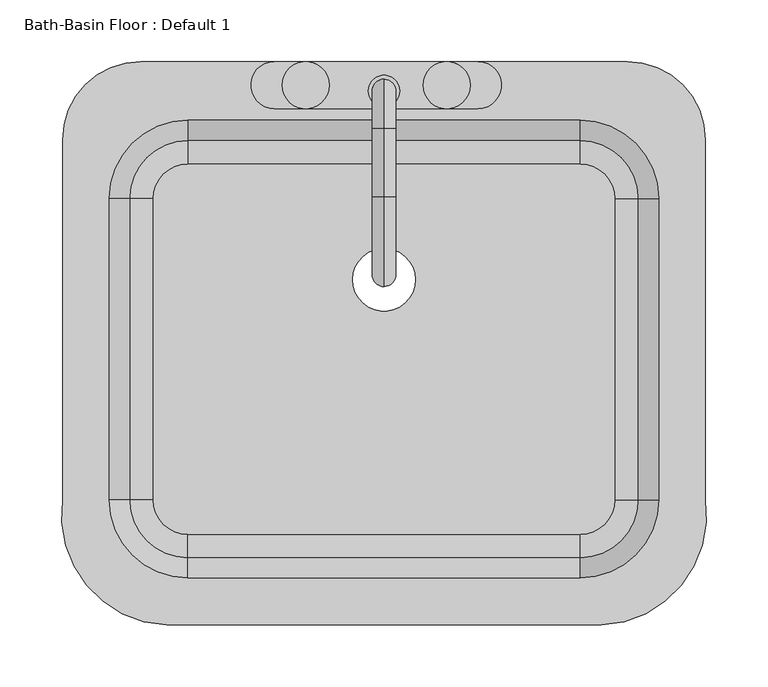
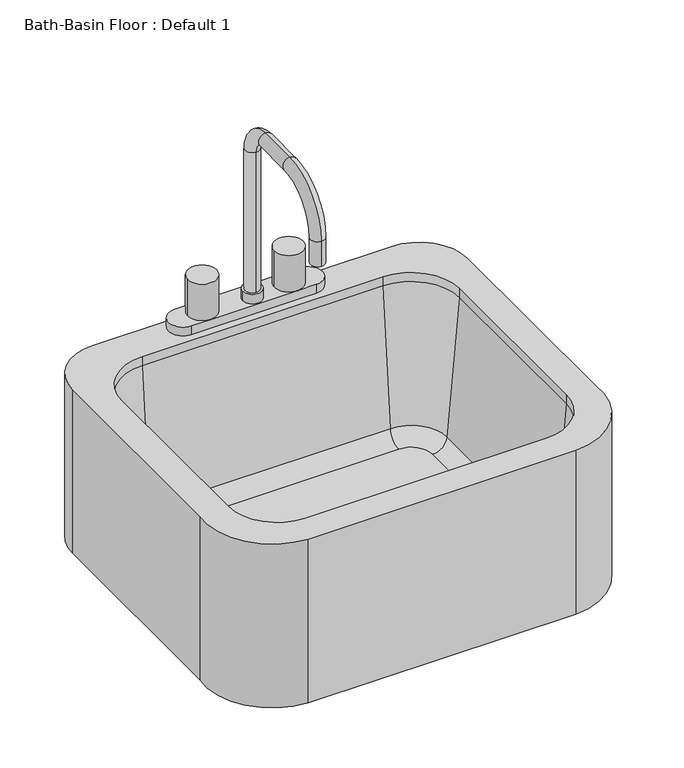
"""IFC4 building model written with IfcOpenShell, lengths in millimetres: flow terminal geometry, Bath-Basin Floor : Default 1."""

from ifc_helpers import new_model, si_unit, point, frame, origin, place, context, project, spatial, polyline, circle_curve, ellipse_curve, trimmed, source, transform, mapped, element, save
from ifc_brep_helpers import plane_surface, cylinder_surface, revolved_surface, advanced_brep


def bath_basin_floor_default_1_6d5a7b09(model_context):
    return source(origin(), model_context, "Body", "AdvancedBrep", [
        advanced_brep(
        [(-160.7132205, -277.0545989, 698.5), (-245.0632875, -175.4545982, 698.5), (-245.0632875, 116.6454011, 698.5), (-181.5632875, 180.1454011, 698.5), (212.9417688, 180.1454011, 698.5), (276.4417688, 116.6454011, 698.5), (276.4417688, -175.4545989, 698.5), (192.0917017, -277.0545989, 698.5), (-9.7107594, 3.175, 698.5), (41.0892406, 3.175, 698.5), (202.830187, 69.0204011, 708.025), (174.8417688, 97.0088193, 708.025), (-143.4632877, 97.0088193, 708.025), (-171.4517059, 69.0204011, 708.025), (-171.4517059, -175.4545989, 708.025), (-143.4632877, -203.4430171, 708.025), (174.8417688, -203.4430171, 708.025), (202.830187, -175.4545989, 708.025), (-9.7107594, 3.175, 708.025), (41.0892406, 3.175, 708.025), (221.807696, 69.0204011, 725.4146831), (174.8417688, 115.9863283, 725.4146831), (238.3417688, 69.0204011, 914.4), (174.8417688, 132.5204011, 914.4), (221.807696, -175.4545989, 725.4146831), (238.3417688, -175.4545989, 914.4), (174.8417688, -222.4205261, 725.4146831), (174.8417688, -238.9545989, 914.4), (-143.4632877, -222.4205261, 725.4146831), (-143.4632877, -238.9545989, 914.4), (-190.4292149, -175.4545989, 725.4146831), (-206.9632877, -175.4545989, 914.4), (-190.4292149, 69.0204011, 725.4146831), (-206.9632877, 69.0204011, 914.4), (-143.4632877, 115.9863283, 725.4146831), (-143.4632877, 132.5204011, 914.4), (-160.7132205, -277.0545989, 927.1), (192.0917017, -277.0545989, 927.1), (276.4417688, -175.4545989, 927.1), (276.4417688, 116.6454011, 927.1), (212.9417688, 180.1454011, 927.1), (-181.5632875, 180.1454011, 927.1), (-245.0632875, 116.6454011, 927.1), (-245.0632875, -175.4545982, 927.1), (174.8417688, 132.5204011, 927.1), (238.3417688, 69.0204011, 927.1), (238.3417688, -175.4545989, 927.1), (174.8417688, -238.9545989, 927.1), (-143.4632877, -238.9545989, 927.1), (-206.9632877, -175.4545989, 927.1), (-206.9632877, 69.0204011, 927.1), (-143.4632877, 132.5204011, 927.1)],
        [
            (0, 1, circle_curve(frame((-156.9060028, -188.0793432, 698.5), z_axis=(0.0, 0.0, -1.0), x_axis=(1.0, 0.0, 0.0)), 89.0566732)),
            (1, 2),
            (2, 3, circle_curve(frame((-181.5632875, 116.6454011, 698.5), z_axis=(0.0, 0.0, -1.0), x_axis=(1.0, 0.0, 0.0)), 63.5)),
            (3, 4),
            (4, 5, circle_curve(frame((212.9417688, 116.6454011, 698.5), z_axis=(0.0, 0.0, -1.0), x_axis=(1.0, 0.0, 0.0)), 63.5)),
            (5, 6),
            (6, 7, circle_curve(frame((188.2844839, -188.0793432, 698.5), z_axis=(0.0, 0.0, -1.0), x_axis=(1.0, 0.0, 0.0)), 89.0566732)),
            (7, 0),
            (8, 9, circle_curve(frame((15.6892406, 3.175, 698.5), z_axis=(0.0, 0.0, 1.0), x_axis=(1.0, 0.0, 0.0)), 25.4)),
            (9, 8, circle_curve(frame((15.6892406, 3.175, 698.5), z_axis=(0.0, 0.0, 1.0), x_axis=(1.0, 0.0, 0.0)), 25.4)),
            (10, 11, circle_curve(frame((174.8417688, 69.0204011, 708.025), z_axis=(0.0, 0.0, 1.0), x_axis=(0.0, 1.0, 0.0)), 27.9884182)),
            (11, 12),
            (12, 13, circle_curve(frame((-143.4632877, 69.0204011, 708.025), z_axis=(0.0, 0.0, 1.0), x_axis=(-1.0, 0.0, 0.0)), 27.9884182)),
            (13, 14),
            (14, 15, circle_curve(frame((-143.4632877, -175.4545989, 708.025), z_axis=(0.0, 0.0, 1.0), x_axis=(0.0, -1.0, 0.0)), 27.9884182)),
            (15, 16),
            (16, 17, circle_curve(frame((174.8417688, -175.4545989, 708.025), z_axis=(0.0, 0.0, 1.0), x_axis=(1.0, 0.0, 0.0)), 27.9884182)),
            (17, 10),
            (18, 19, circle_curve(frame((15.6892406, 3.175, 708.025), z_axis=(0.0, 0.0, -1.0), x_axis=(1.0, 0.0, 0.0)), 25.4)),
            (19, 18, circle_curve(frame((15.6892406, 3.175, 708.025), z_axis=(0.0, 0.0, -1.0), x_axis=(1.0, 0.0, 0.0)), 25.4)),
            (10, 20, circle_curve(frame((202.830187, 69.0204011, 727.075), z_axis=(0.0, -1.0, 0.0), x_axis=(1.0, 0.0, 0.0)), 19.05)),
            (20, 21, circle_curve(frame((174.8417688, 69.0204011, 725.4146831), z_axis=(0.0, 0.0, 1.0), x_axis=(0.0, 1.0, 0.0)), 46.9659272)),
            (21, 11, circle_curve(frame((174.8417688, 97.0088193, 727.075), z_axis=(-1.0, 0.0, 0.0), x_axis=(0.0, 1.0, 0.0)), 19.05)),
            (20, 22),
            (22, 23, circle_curve(frame((174.8417688, 69.0204011, 914.4), z_axis=(0.0, 0.0, 1.0), x_axis=(0.0, 1.0, 0.0)), 63.5)),
            (23, 21),
            (17, 24, circle_curve(frame((202.830187, -175.4545989, 727.075), z_axis=(0.0, -1.0, 0.0), x_axis=(1.0, 0.0, 0.0)), 19.05)),
            (24, 20),
            (24, 25),
            (25, 22),
            (16, 26, circle_curve(frame((174.8417688, -203.4430171, 727.075), z_axis=(-1.0, 0.0, 0.0), x_axis=(0.0, -1.0, 0.0)), 19.05)),
            (26, 24, circle_curve(frame((174.8417688, -175.4545989, 725.4146831), z_axis=(0.0, 0.0, 1.0), x_axis=(1.0, 0.0, 0.0)), 46.9659272)),
            (26, 27),
            (27, 25, circle_curve(frame((174.8417688, -175.4545989, 914.4), z_axis=(0.0, 0.0, 1.0), x_axis=(1.0, 0.0, 0.0)), 63.5)),
            (15, 28, circle_curve(frame((-143.4632877, -203.4430171, 727.075), z_axis=(-1.0, 0.0, 0.0), x_axis=(0.0, -1.0, 0.0)), 19.05)),
            (28, 26),
            (28, 29),
            (29, 27),
            (14, 30, circle_curve(frame((-171.4517059, -175.4545989, 727.075), z_axis=(0.0, 1.0, 0.0), x_axis=(-1.0, 0.0, 0.0)), 19.05)),
            (30, 28, circle_curve(frame((-143.4632877, -175.4545989, 725.4146831), z_axis=(0.0, 0.0, 1.0), x_axis=(0.0, -1.0, 0.0)), 46.9659272)),
            (30, 31),
            (31, 29, circle_curve(frame((-143.4632877, -175.4545989, 914.4), z_axis=(0.0, 0.0, 1.0), x_axis=(0.0, -1.0, 0.0)), 63.5)),
            (13, 32, circle_curve(frame((-171.4517059, 69.0204011, 727.075), z_axis=(0.0, 1.0, 0.0), x_axis=(-1.0, 0.0, 0.0)), 19.05)),
            (32, 30),
            (32, 33),
            (33, 31),
            (12, 34, circle_curve(frame((-143.4632877, 97.0088193, 727.075), z_axis=(1.0, 0.0, 0.0), x_axis=(0.0, 1.0, 0.0)), 19.05)),
            (34, 32, circle_curve(frame((-143.4632877, 69.0204011, 725.4146831), z_axis=(0.0, 0.0, 1.0), x_axis=(-1.0, 0.0, 0.0)), 46.9659272)),
            (34, 35),
            (35, 33, circle_curve(frame((-143.4632877, 69.0204011, 914.4), z_axis=(0.0, 0.0, 1.0), x_axis=(-1.0, 0.0, 0.0)), 63.5)),
            (21, 34),
            (23, 35),
            (18, 8),
            (9, 19),
            (36, 37),
            (37, 38, circle_curve(frame((188.2844839, -188.0793432, 927.1), z_axis=(0.0, 0.0, 1.0), x_axis=(1.0, 0.0, 0.0)), 89.0566732)),
            (38, 39),
            (39, 40, circle_curve(frame((212.9417688, 116.6454011, 927.1), z_axis=(0.0, 0.0, 1.0), x_axis=(1.0, 0.0, 0.0)), 63.5)),
            (40, 41),
            (41, 42, circle_curve(frame((-181.5632875, 116.6454011, 927.1), z_axis=(0.0, 0.0, 1.0), x_axis=(1.0, 0.0, 0.0)), 63.5)),
            (42, 43),
            (43, 36, circle_curve(frame((-156.9060028, -188.0793432, 927.1), z_axis=(0.0, 0.0, 1.0), x_axis=(1.0, 0.0, 0.0)), 89.0566732)),
            (44, 45, circle_curve(frame((174.8417688, 69.0204011, 927.1), z_axis=(0.0, 0.0, -1.0), x_axis=(1.0, 0.0, 0.0)), 63.5)),
            (45, 46),
            (46, 47, circle_curve(frame((174.8417688, -175.4545989, 927.1), z_axis=(0.0, 0.0, -1.0), x_axis=(1.0, 0.0, 0.0)), 63.5)),
            (47, 48),
            (48, 49, circle_curve(frame((-143.4632877, -175.4545989, 927.1), z_axis=(0.0, 0.0, -1.0), x_axis=(1.0, 0.0, 0.0)), 63.5)),
            (49, 50),
            (50, 51, circle_curve(frame((-143.4632877, 69.0204011, 927.1), z_axis=(0.0, 0.0, -1.0), x_axis=(1.0, 0.0, 0.0)), 63.5)),
            (51, 44),
            (36, 0),
            (7, 37),
            (6, 38),
            (5, 39),
            (4, 40),
            (3, 41),
            (2, 42),
            (1, 43),
            (44, 23),
            (22, 45),
            (25, 46),
            (27, 47),
            (29, 48),
            (31, 49),
            (33, 50),
            (35, 51),
        ],
        [
            plane_surface(frame((174.8417688, 69.0204011, 698.5), z_axis=(0.0, 0.0, -1.0), x_axis=(0.0, 1.0, 0.0))),
            plane_surface(frame((174.8417688, 69.0204011, 708.025), z_axis=(0.0, 0.0, 1.0), x_axis=(0.0, 1.0, 0.0))),
            revolved_surface(trimmed(ellipse_curve(frame((174.8417688, 97.0088193, 727.075), z_axis=(1.0, 0.0, 0.0), x_axis=(0.0, 1.0, 0.0)), 19.05, 19.05), [point((174.8417688, 97.0088193, 708.025))], [point((174.8417688, 115.9863283, 725.4146831))], True, "CARTESIAN"), (174.8417688, 69.0204011, 0.0), (0.0, 0.0, -1.0)),
            revolved_surface(polyline([(174.8417688, 115.9863283, 725.4146831), (174.8417688, 132.5204011, 914.4)]), (174.8417688, 69.0204011, 0.0), (0.0, 0.0, -1.0)),
            revolved_surface(polyline([(221.880187, -175.4545989, 727.075), (221.880187, 69.0204011, 727.075)]), (202.830187, 69.0204011, 727.075), (0.0, -1.0, 0.0)),
            plane_surface(frame((221.807696, 69.0204011, 725.4146831), z_axis=(-0.9961946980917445, 0.0, 0.08715574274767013), x_axis=(0.0, -1.0, 0.0))),
            revolved_surface(trimmed(ellipse_curve(frame((202.830187, -175.4545989, 727.075), z_axis=(0.0, -1.0, 0.0), x_axis=(1.0, 0.0, 0.0)), 19.05, 19.05), [point((202.830187, -175.4545989, 708.025))], [point((221.807696, -175.4545989, 725.4146831))], True, "CARTESIAN"), (174.8417688, -175.4545989, 0.0), (0.0, 0.0, -1.0)),
            revolved_surface(polyline([(221.807696, -175.4545989, 725.4146831), (238.3417688, -175.4545989, 914.4)]), (174.8417688, -175.4545989, 0.0), (0.0, 0.0, -1.0)),
            revolved_surface(polyline([(-143.46328769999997, -222.4930171, 727.075), (174.8417688, -222.4930171, 727.075)]), (174.8417688, -203.4430171, 727.075), (-1.0, 0.0, 0.0)),
            plane_surface(frame((174.8417688, -222.4205261, 725.4146831), z_axis=(0.0, 0.9961946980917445, 0.08715574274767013), x_axis=(-1.0, 0.0, 0.0))),
            revolved_surface(trimmed(ellipse_curve(frame((-143.4632877, -203.4430171, 727.075), z_axis=(-1.0, 0.0, 0.0), x_axis=(0.0, -1.0, 0.0)), 19.05, 19.05), [point((-143.4632877, -203.4430171, 708.025))], [point((-143.4632877, -222.4205261, 725.4146831))], True, "CARTESIAN"), (-143.4632877, -175.4545989, 0.0), (0.0, 0.0, -1.0)),
            revolved_surface(polyline([(-143.4632877, -222.4205261, 725.4146831), (-143.4632877, -238.9545989, 914.4)]), (-143.4632877, -175.4545989, 0.0), (0.0, 0.0, -1.0)),
            revolved_surface(polyline([(-190.50170590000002, 69.02040110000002, 727.075), (-190.50170590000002, -175.4545989, 727.075)]), (-171.4517059, -175.4545989, 727.075), (0.0, 1.0, 0.0)),
            plane_surface(frame((-190.4292149, -175.4545989, 725.4146831), z_axis=(0.9961946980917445, 0.0, 0.08715574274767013), x_axis=(0.0, 1.0, 0.0))),
            revolved_surface(trimmed(ellipse_curve(frame((-171.4517059, 69.0204011, 727.075), z_axis=(0.0, 1.0, 0.0), x_axis=(-1.0, 0.0, 0.0)), 19.05, 19.05), [point((-171.4517059, 69.0204011, 708.025))], [point((-190.4292149, 69.0204011, 725.4146831))], True, "CARTESIAN"), (-143.4632877, 69.0204011, 0.0), (0.0, 0.0, -1.0)),
            revolved_surface(polyline([(-190.4292149, 69.0204011, 725.4146831), (-206.9632877, 69.0204011, 914.4)]), (-143.4632877, 69.0204011, 0.0), (0.0, 0.0, -1.0)),
            revolved_surface(polyline([(174.84176879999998, 116.0588193, 727.075), (-143.4632877, 116.0588193, 727.075)]), (-143.4632877, 97.0088193, 727.075), (1.0, 0.0, 0.0)),
            plane_surface(frame((-143.4632877, 115.9863283, 725.4146831), z_axis=(0.0, -0.9961946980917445, 0.08715574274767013), x_axis=(1.0, 0.0, 0.0))),
            revolved_surface(polyline([(41.0892406, 3.175, 698.5), (41.0892406, 3.175, 708.025)]), (15.6892406, 3.175, 0.0), (0.0, 0.0, -1.0)),
            plane_surface(frame((192.0917017, -277.0545989, 927.1), z_axis=(0.0, 0.0, 1.0), x_axis=(1.0, 0.0, 0.0))),
            plane_surface(frame((-160.7132205, -277.0545989, 927.1), z_axis=(0.0, -1.0, 0.0), x_axis=(0.0, 0.0, -1.0))),
            cylinder_surface(frame((188.2844839, -188.0793432, 698.5), z_axis=(0.0, 0.0, 1.0), x_axis=(1.0, 0.0, 0.0)), 89.0566732),
            plane_surface(frame((276.4417688, -175.4545989, 927.1), z_axis=(1.0, 0.0, 0.0), x_axis=(0.0, 0.0, -1.0))),
            cylinder_surface(frame((212.9417688, 116.6454011, 698.5), z_axis=(0.0, 0.0, 1.0), x_axis=(1.0, 0.0, 0.0)), 63.5),
            plane_surface(frame((212.9417688, 180.1454011, 927.1), z_axis=(0.0, 1.0, 0.0), x_axis=(0.0, 0.0, -1.0))),
            cylinder_surface(frame((-181.5632875, 116.6454011, 698.5), z_axis=(0.0, 0.0, 1.0), x_axis=(1.0, 0.0, 0.0)), 63.5),
            plane_surface(frame((-245.0632875, 116.6454011, 927.1), z_axis=(-1.0, 0.0, 0.0), x_axis=(0.0, 0.0, -1.0))),
            cylinder_surface(frame((-156.9060028, -188.0793432, 698.5), z_axis=(0.0, 0.0, 1.0), x_axis=(1.0, 0.0, 0.0)), 89.0566732),
            revolved_surface(polyline([(238.3417688, 69.0204011, 914.4), (238.3417688, 69.0204011, 927.1)]), (174.8417688, 69.0204011, 0.0), (0.0, 0.0, -1.0)),
            plane_surface(frame((238.3417688, 69.0204011, 927.1), z_axis=(-1.0, 0.0, 0.0), x_axis=(0.0, 0.0, -1.0))),
            revolved_surface(polyline([(238.3417688, -175.4545989, 914.4), (238.3417688, -175.4545989, 927.1)]), (174.8417688, -175.4545989, 0.0), (0.0, 0.0, -1.0)),
            plane_surface(frame((174.8417688, -238.9545989, 927.1), z_axis=(0.0, 1.0, 0.0), x_axis=(0.0, 0.0, -1.0))),
            revolved_surface(polyline([(-79.9632877, -175.4545989, 914.4), (-79.9632877, -175.4545989, 927.1)]), (-143.4632877, -175.4545989, 0.0), (0.0, 0.0, -1.0)),
            plane_surface(frame((-206.9632877, -175.4545989, 927.1), z_axis=(1.0, 0.0, 0.0), x_axis=(0.0, 0.0, -1.0))),
            revolved_surface(polyline([(-79.9632877, 69.0204011, 914.4), (-79.9632877, 69.0204011, 927.1)]), (-143.4632877, 69.0204011, 0.0), (0.0, 0.0, -1.0)),
            plane_surface(frame((-143.4632877, 132.5204011, 927.1), z_axis=(0.0, -1.0, 0.0), x_axis=(0.0, 0.0, -1.0))),
        ],
        [
            (0, [[1, 2, 3, 4, 5, 6, 7, 8], [9, 10]]),
            (1, [[11, 12, 13, 14, 15, 16, 17, 18], [19, 20]]),
            (2, [[-11, 21, 22, 23]]),
            (3, [[-22, 24, 25, 26]]),
            (4, [[-21, -18, 27, 28]]),
            (5, [[-24, -28, 29, 30]]),
            (6, [[-27, -17, 31, 32]]),
            (7, [[-29, -32, 33, 34]]),
            (8, [[-31, -16, 35, 36]]),
            (9, [[-33, -36, 37, 38]]),
            (10, [[-35, -15, 39, 40]]),
            (11, [[-37, -40, 41, 42]]),
            (12, [[-39, -14, 43, 44]]),
            (13, [[-41, -44, 45, 46]]),
            (14, [[-43, -13, 47, 48]]),
            (15, [[-45, -48, 49, 50]]),
            (16, [[-23, 51, -47, -12]]),
            (17, [[-26, 52, -49, -51]]),
            (18, [[-19, 53, -10, 54]]),
            (18, [[-20, -54, -9, -53]]),
            (19, [[55, 56, 57, 58, 59, 60, 61, 62], [63, 64, 65, 66, 67, 68, 69, 70]]),
            (20, [[-55, 71, -8, 72]]),
            (21, [[-56, -72, -7, 73]]),
            (22, [[-57, -73, -6, 74]]),
            (23, [[-58, -74, -5, 75]]),
            (24, [[-59, -75, -4, 76]]),
            (25, [[-60, -76, -3, 77]]),
            (26, [[-61, -77, -2, 78]]),
            (27, [[-62, -78, -1, -71]]),
            (28, [[-63, 79, -25, 80]]),
            (29, [[-64, -80, -30, 81]]),
            (30, [[-65, -81, -34, 82]]),
            (31, [[-66, -82, -38, 83]]),
            (32, [[-67, -83, -42, 84]]),
            (33, [[-68, -84, -46, 85]]),
            (34, [[-69, -85, -50, 86]]),
            (35, [[-70, -86, -52, -79]]),
        ],
    ),
        advanced_brep(
        [(91.8892406, 180.1454011, 927.1), (91.8892406, 142.0454011, 927.1), (66.4892406, 142.0454011, 927.1), (-47.8107594, 142.0454011, 927.1), (-73.2107594, 142.0454011, 927.1), (-73.2107594, 180.1454011, 927.1), (-47.8107594, 180.1454011, 927.1), (66.4892406, 180.1454011, 927.1), (15.6892406, 165.8579011, 1147.7625), (15.6892406, 146.8079011, 1147.7625), (15.6892406, 146.8079011, 952.5), (15.6892406, 165.8579011, 952.5), (15.6892406, 126.1704011, 1187.45), (15.6892406, 126.1704011, 1168.4), (15.6892406, 70.6079011, 1187.45), (15.6892406, 70.6079011, 1168.4), (15.6892406, -2.4170989, 1114.425), (15.6892406, 16.6329011, 1114.425), (15.6892406, -2.4170989, 1079.5), (15.6892406, 16.6329011, 1079.5), (2.9892406, 156.3329011, 952.5), (28.3892406, 156.3329011, 952.5), (2.9892406, 156.3329011, 939.6), (28.3892406, 156.3329011, 939.6), (-73.2107594, 180.1454011, 939.6), (-73.2107594, 142.0454011, 939.6), (-47.8107594, 142.0454011, 939.6), (-66.8607594, 161.0954011, 939.6), (-47.8107594, 180.1454011, 939.6), (91.8892406, 142.0454011, 939.6), (91.8892406, 180.1454011, 939.6), (66.4892406, 180.1454011, 939.6), (85.5392406, 161.0954011, 939.6), (66.4892406, 142.0454011, 939.6), (-28.7607594, 161.0954011, 939.6), (47.4392406, 161.0954011, 939.6), (-66.8607594, 161.0954011, 990.6), (-28.7607594, 161.0954011, 990.6), (47.4392406, 161.0954011, 990.6), (85.5392406, 161.0954011, 990.6)],
        [
            (0, 1, circle_curve(frame((91.8892406, 161.0954011, 927.1), z_axis=(0.0, 0.0, -1.0), x_axis=(1.0, 0.0, 0.0)), 19.05)),
            (1, 2),
            (2, 3),
            (3, 4),
            (4, 5, circle_curve(frame((-73.2107594, 161.0954011, 927.1), z_axis=(0.0, 0.0, -1.0), x_axis=(1.0, 0.0, 0.0)), 19.05)),
            (5, 6),
            (6, 7),
            (7, 0),
            (8, 9, circle_curve(frame((15.6892406, 156.3329011, 1147.7625), z_axis=(0.0, 0.0, -1.0), x_axis=(0.0, -1.0, 0.0)), 9.525)),
            (9, 10),
            (10, 11, circle_curve(frame((15.6892406, 156.3329011, 952.5), z_axis=(0.0, 0.0, 1.0), x_axis=(0.0, -1.0, 0.0)), 9.525)),
            (11, 8),
            (9, 8, circle_curve(frame((15.6892406, 156.3329011, 1147.7625), z_axis=(0.0, 0.0, -1.0), x_axis=(0.0, -1.0, 0.0)), 9.525)),
            (11, 10, circle_curve(frame((15.6892406, 156.3329011, 952.5), z_axis=(0.0, 0.0, 1.0), x_axis=(0.0, -1.0, 0.0)), 9.525)),
            (8, 12, circle_curve(frame((15.6892406, 126.1704011, 1147.7625), z_axis=(1.0, 0.0, 0.0), x_axis=(0.0, 1.0, 0.0)), 39.6875)),
            (12, 13, circle_curve(frame((15.6892406, 126.1704011, 1177.925), z_axis=(0.0, 1.0, 0.0), x_axis=(0.0, 0.0, -1.0)), 9.525)),
            (13, 9, circle_curve(frame((15.6892406, 126.1704011, 1147.7625), z_axis=(-1.0, 0.0, 0.0), x_axis=(0.0, 1.0, 0.0)), 20.6375)),
            (13, 12, circle_curve(frame((15.6892406, 126.1704011, 1177.925), z_axis=(0.0, 1.0, 0.0), x_axis=(0.0, 0.0, -1.0)), 9.525)),
            (12, 14),
            (14, 15, circle_curve(frame((15.6892406, 70.6079011, 1177.925), z_axis=(0.0, 1.0, 0.0), x_axis=(0.0, 0.0, -1.0)), 9.525)),
            (15, 13),
            (15, 14, circle_curve(frame((15.6892406, 70.6079011, 1177.925), z_axis=(0.0, 1.0, 0.0), x_axis=(0.0, 0.0, -1.0)), 9.525)),
            (14, 16, circle_curve(frame((15.6892406, 70.6079011, 1114.425), z_axis=(1.0, 0.0, 0.0), x_axis=(0.0, 0.0, 1.0)), 73.025)),
            (16, 17, circle_curve(frame((15.6892406, 7.1079011, 1114.425), z_axis=(0.0, 0.0, 1.0), x_axis=(0.0, 1.0, 0.0)), 9.525)),
            (17, 15, circle_curve(frame((15.6892406, 70.6079011, 1114.425), z_axis=(-1.0, 0.0, 0.0), x_axis=(0.0, 0.0, 1.0)), 53.975)),
            (17, 16, circle_curve(frame((15.6892406, 7.1079011, 1114.425), z_axis=(0.0, 0.0, 1.0), x_axis=(0.0, 1.0, 0.0)), 9.525)),
            (18, 19, circle_curve(frame((15.6892406, 7.1079011, 1079.5), z_axis=(0.0, 0.0, -1.0), x_axis=(0.0, 1.0, 0.0)), 9.525)),
            (19, 18, circle_curve(frame((15.6892406, 7.1079011, 1079.5), z_axis=(0.0, 0.0, -1.0), x_axis=(0.0, 1.0, 0.0)), 9.525)),
            (16, 18),
            (19, 17),
            (20, 21, circle_curve(frame((15.6892406, 156.3329011, 952.5), z_axis=(0.0, 0.0, 1.0), x_axis=(1.0, 0.0, 0.0)), 12.7)),
            (21, 20, circle_curve(frame((15.6892406, 156.3329011, 952.5), z_axis=(0.0, 0.0, 1.0), x_axis=(1.0, 0.0, 0.0)), 12.7)),
            (20, 22),
            (22, 23, circle_curve(frame((15.6892406, 156.3329011, 939.6), z_axis=(0.0, 0.0, 1.0), x_axis=(1.0, 0.0, 0.0)), 12.7)),
            (23, 21),
            (23, 22, circle_curve(frame((15.6892406, 156.3329011, 939.6), z_axis=(0.0, 0.0, 1.0), x_axis=(1.0, 0.0, 0.0)), 12.7)),
            (24, 25, circle_curve(frame((-73.2107594, 161.0954011, 939.6), z_axis=(0.0, 0.0, 1.0), x_axis=(1.0, 0.0, 0.0)), 19.05)),
            (25, 26),
            (26, 27, circle_curve(frame((-47.8107594, 161.0954011, 939.6), z_axis=(0.0, 0.0, -1.0), x_axis=(1.0, 0.0, 0.0)), 19.05)),
            (27, 28, circle_curve(frame((-47.8107594, 161.0954011, 939.6), z_axis=(0.0, 0.0, -1.0), x_axis=(1.0, 0.0, 0.0)), 19.05)),
            (28, 24),
            (29, 30, circle_curve(frame((91.8892406, 161.0954011, 939.6), z_axis=(0.0, 0.0, 1.0), x_axis=(1.0, 0.0, 0.0)), 19.05)),
            (30, 31),
            (31, 32, circle_curve(frame((66.4892406, 161.0954011, 939.6), z_axis=(0.0, 0.0, -1.0), x_axis=(1.0, 0.0, 0.0)), 19.05)),
            (32, 33, circle_curve(frame((66.4892406, 161.0954011, 939.6), z_axis=(0.0, 0.0, -1.0), x_axis=(1.0, 0.0, 0.0)), 19.05)),
            (33, 29),
            (31, 28),
            (28, 34, circle_curve(frame((-47.8107594, 161.0954011, 939.6), z_axis=(0.0, 0.0, -1.0), x_axis=(1.0, 0.0, 0.0)), 19.05)),
            (34, 26, circle_curve(frame((-47.8107594, 161.0954011, 939.6), z_axis=(0.0, 0.0, -1.0), x_axis=(1.0, 0.0, 0.0)), 19.05)),
            (26, 33),
            (33, 35, circle_curve(frame((66.4892406, 161.0954011, 939.6), z_axis=(0.0, 0.0, -1.0), x_axis=(1.0, 0.0, 0.0)), 19.05)),
            (35, 31, circle_curve(frame((66.4892406, 161.0954011, 939.6), z_axis=(0.0, 0.0, -1.0), x_axis=(1.0, 0.0, 0.0)), 19.05)),
            (30, 0),
            (5, 24),
            (4, 25),
            (1, 29),
            (36, 37, circle_curve(frame((-47.8107594, 161.0954011, 990.6), z_axis=(0.0, 0.0, 1.0), x_axis=(1.0, 0.0, 0.0)), 19.05)),
            (37, 36, circle_curve(frame((-47.8107594, 161.0954011, 990.6), z_axis=(0.0, 0.0, 1.0), x_axis=(1.0, 0.0, 0.0)), 19.05)),
            (38, 39, circle_curve(frame((66.4892406, 161.0954011, 990.6), z_axis=(0.0, 0.0, 1.0), x_axis=(1.0, 0.0, 0.0)), 19.05)),
            (39, 38, circle_curve(frame((66.4892406, 161.0954011, 990.6), z_axis=(0.0, 0.0, 1.0), x_axis=(1.0, 0.0, 0.0)), 19.05)),
            (36, 27),
            (34, 37),
            (38, 35),
            (32, 39),
        ],
        [
            plane_surface(frame((15.6892406, 146.8079011, 927.1), z_axis=(0.0, 0.0, -1.0), x_axis=(1.0, 0.0, 0.0))),
            cylinder_surface(frame((15.6892406, 156.3329011, 927.1), z_axis=(0.0, 0.0, -1.0), x_axis=(0.0, -1.0, 0.0)), 9.525),
            revolved_surface(trimmed(ellipse_curve(frame((15.6892406, 156.3329011, 1147.7625), z_axis=(0.0, 0.0, -1.0), x_axis=(0.0, -1.0, 0.0)), 9.525, 9.525), [point((15.6892406, 165.8579011, 1147.7625))], [point((15.6892406, 146.8079011, 1147.7625))], True, "CARTESIAN"), (15.6892406, 126.1704011, 1147.7625), (1.0, 0.0, 0.0)),
            revolved_surface(trimmed(ellipse_curve(frame((15.6892406, 156.3329011, 1147.7625), z_axis=(0.0, 0.0, -1.0), x_axis=(0.0, -1.0, 0.0)), 9.525, 9.525), [point((15.6892406, 146.8079011, 1147.7625))], [point((15.6892406, 165.8579011, 1147.7625))], True, "CARTESIAN"), (15.6892406, 126.1704011, 1147.7625), (1.0, 0.0, 0.0)),
            cylinder_surface(frame((15.6892406, 126.1704011, 1177.925), z_axis=(0.0, 1.0, 0.0), x_axis=(0.0, 0.0, -1.0)), 9.525),
            revolved_surface(trimmed(ellipse_curve(frame((15.6892406, 70.6079011, 1177.925), z_axis=(0.0, 1.0, 0.0), x_axis=(0.0, 0.0, -1.0)), 9.525, 9.525), [point((15.6892406, 70.6079011, 1187.45))], [point((15.6892406, 70.6079011, 1168.4))], True, "CARTESIAN"), (15.6892406, 70.6079011, 1114.425), (1.0, 0.0, 0.0)),
            revolved_surface(trimmed(ellipse_curve(frame((15.6892406, 70.6079011, 1177.925), z_axis=(0.0, 1.0, 0.0), x_axis=(0.0, 0.0, -1.0)), 9.525, 9.525), [point((15.6892406, 70.6079011, 1168.4))], [point((15.6892406, 70.6079011, 1187.45))], True, "CARTESIAN"), (15.6892406, 70.6079011, 1114.425), (1.0, 0.0, 0.0)),
            plane_surface(frame((15.6892406, -2.4170989, 1079.5), z_axis=(0.0, 0.0, -1.0), x_axis=(-1.0, 0.0, 0.0))),
            cylinder_surface(frame((15.6892406, 7.1079011, 1114.425), z_axis=(0.0, 0.0, 1.0), x_axis=(0.0, 1.0, 0.0)), 9.525),
            plane_surface(frame((28.3892406, 156.3329011, 952.5), z_axis=(0.0, 0.0, 1.0), x_axis=(0.0, 1.0, 0.0))),
            cylinder_surface(frame((15.6892406, 156.3329011, 927.1), z_axis=(0.0, 0.0, 1.0), x_axis=(1.0, 0.0, 0.0)), 12.7),
            plane_surface(frame((-73.2107594, 180.1454011, 939.6), z_axis=(0.0, 0.0, 1.0), x_axis=(-1.0, 0.0, 0.0))),
            plane_surface(frame((91.8892406, 180.1454011, 939.6), z_axis=(0.0, 1.0, 0.0), x_axis=(0.0, 0.0, -1.0))),
            cylinder_surface(frame((-73.2107594, 161.0954011, 927.1), z_axis=(0.0, 0.0, 1.0), x_axis=(1.0, 0.0, 0.0)), 19.05),
            plane_surface(frame((-73.2107594, 142.0454011, 939.6), z_axis=(0.0, -1.0, 0.0), x_axis=(0.0, 0.0, -1.0))),
            cylinder_surface(frame((91.8892406, 161.0954011, 927.1), z_axis=(0.0, 0.0, 1.0), x_axis=(1.0, 0.0, 0.0)), 19.05),
            plane_surface(frame((-28.7607594, 161.0954011, 990.6), z_axis=(0.0, 0.0, 1.0), x_axis=(0.0, 1.0, 0.0))),
            cylinder_surface(frame((-47.8107594, 161.0954011, 927.1), z_axis=(0.0, 0.0, 1.0), x_axis=(1.0, 0.0, 0.0)), 19.05),
            cylinder_surface(frame((66.4892406, 161.0954011, 0.0), z_axis=(0.0, 0.0, 1.0), x_axis=(1.0, 0.0, 0.0)), 19.05),
        ],
        [
            (0, [[1, 2, 3, 4, 5, 6, 7, 8]]),
            (1, [[9, 10, 11, 12]]),
            (1, [[13, -12, 14, -10]]),
            (2, [[-9, 15, 16, 17]]),
            (3, [[-13, -17, 18, -15]]),
            (4, [[-16, 19, 20, 21]]),
            (4, [[-18, -21, 22, -19]]),
            (5, [[-20, 23, 24, 25]]),
            (6, [[-22, -25, 26, -23]]),
            (7, [[27, 28]]),
            (8, [[-24, 29, -28, 30]]),
            (8, [[-26, -30, -27, -29]]),
            (9, [[31, 32], [-11, -14]]),
            (10, [[-31, 33, 34, 35]]),
            (10, [[-32, -35, 36, -33]]),
            (11, [[37, 38, 39, 40, 41]]),
            (11, [[42, 43, 44, 45, 46]]),
            (11, [[47, 48, 49, 50, 51, 52], [-34, -36]]),
            (12, [[53, -8, -7, -6, 54, -41, -47, -43]]),
            (13, [[-37, -54, -5, 55]]),
            (14, [[-55, -4, -3, -2, 56, -46, -50, -38]]),
            (15, [[-42, -56, -1, -53]]),
            (16, [[57, 58]]),
            (16, [[59, 60]]),
            (17, [[-57, 61, -39, -49, 62]]),
            (17, [[-58, -62, -48, -40, -61]]),
            (18, [[-59, 63, -51, -45, 64]]),
            (18, [[-60, -64, -44, -52, -63]]),
        ],
    ),
    ])


if __name__ == "__main__":
    model = new_model("IFC4")
    model_context = context("Model", 3, world=origin())
    ifc_project = project(units=[si_unit("LENGTHUNIT", "METRE", prefix="MILLI")], contexts=[model_context])
    site = spatial("IfcSite", under=ifc_project)
    building = spatial("IfcBuilding", under=site)
    placement = place(None, origin())
    bath_basin_floor_default_1_shape = bath_basin_floor_default_1_6d5a7b09(model_context)
    element("IfcFlowTerminal", 1, ObjectType="Bath-Basin Floor : Default 1", at=placement, inside=building, context=model_context, shape_type="MappedRepresentation", body=[
        mapped(bath_basin_floor_default_1_shape, transform((0.0, 0.0, 0.0), x_axis=(1.0, 0.0, 0.0), y_axis=(0.0, 1.0, 0.0), z_axis=(0.0, 0.0, 1.0))),
    ])
    save(model, "model.ifc")
